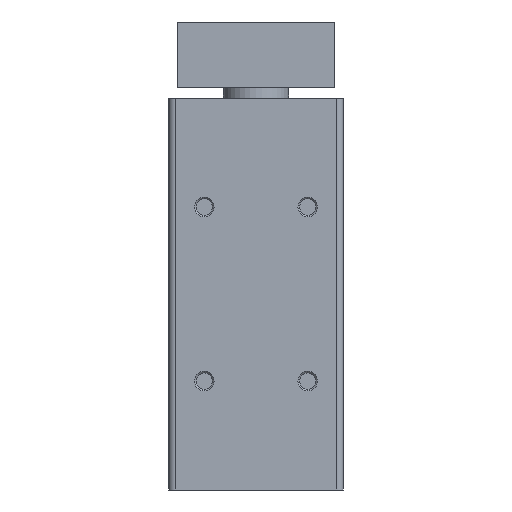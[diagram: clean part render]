
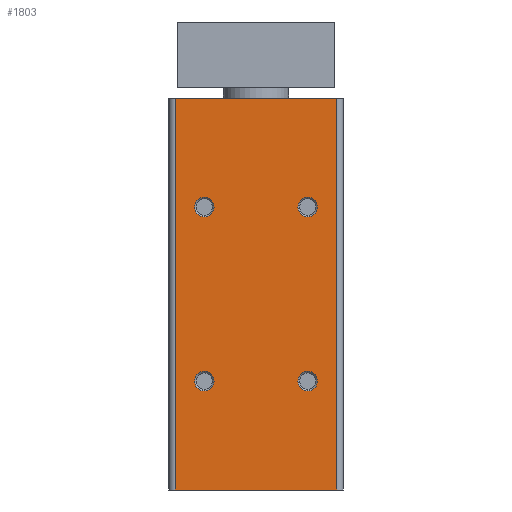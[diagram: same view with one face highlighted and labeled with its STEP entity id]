
A CAD part, front view. The second image highlights one B-rep face of the part: STEP entity #1803.
In plain terms, the highlighted planar face has unit normal (0, -1, 0).
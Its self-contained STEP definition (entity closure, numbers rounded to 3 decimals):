
#748=CARTESIAN_POINT('',(-14.8,-41.,-2.0));
#749=VERTEX_POINT('',#748);
#757=CARTESIAN_POINT('',(14.8,-41.,-2.0));
#758=VERTEX_POINT('',#757);
#759=CARTESIAN_POINT('',(14.8,-41.,-2.0));
#760=DIRECTION('',(-1.0,0.0,0.0));
#761=VECTOR('',#760,29.6);
#762=LINE('',#759,#761);
#763=EDGE_CURVE('',#758,#749,#762,.T.);
#1146=CARTESIAN_POINT('',(14.8,-41.,-74.0));
#1147=VERTEX_POINT('',#1146);
#1155=CARTESIAN_POINT('',(-14.8,-41.,-74.0));
#1156=VERTEX_POINT('',#1155);
#1157=CARTESIAN_POINT('',(-14.8,-41.,-74.0));
#1158=DIRECTION('',(1.0,0.0,0.0));
#1159=VECTOR('',#1158,29.6);
#1160=LINE('',#1157,#1159);
#1161=EDGE_CURVE('',#1156,#1147,#1160,.T.);
#1734=CARTESIAN_POINT('',(-7.7,-41.,-22.0));
#1735=VERTEX_POINT('',#1734);
#1736=CARTESIAN_POINT('',(-9.5,-41.,-22.0));
#1737=DIRECTION('',(0.0,-1.0,0.0));
#1738=DIRECTION('',(-1.0,0.0,0.0));
#1739=AXIS2_PLACEMENT_3D('',#1736,#1737,#1738);
#1740=CIRCLE('',#1739,1.8);
#1741=EDGE_CURVE('',#1735,#1735,#1740,.T.);
#1746=CARTESIAN_POINT('',(-14.8,-41.,-2.0));
#1747=DIRECTION('',(0.0,-1.0,0.0));
#1748=DIRECTION('',(0.0,0.0,-1.0));
#1749=AXIS2_PLACEMENT_3D('',#1746,#1747,#1748);
#1750=PLANE('',#1749);
#1751=ORIENTED_EDGE('',*,*,#1161,.T.);
#1752=CARTESIAN_POINT('',(14.8,-41.,-2.0));
#1753=DIRECTION('',(0.0,0.0,-1.0));
#1754=VECTOR('',#1753,72.0);
#1755=LINE('',#1752,#1754);
#1756=EDGE_CURVE('',#758,#1147,#1755,.T.);
#1757=ORIENTED_EDGE('',*,*,#1756,.F.);
#1758=ORIENTED_EDGE('',*,*,#763,.T.);
#1759=CARTESIAN_POINT('',(-14.8,-41.,-2.0));
#1760=DIRECTION('',(0.0,0.0,-1.0));
#1761=VECTOR('',#1760,72.0);
#1762=LINE('',#1759,#1761);
#1763=EDGE_CURVE('',#749,#1156,#1762,.T.);
#1764=ORIENTED_EDGE('',*,*,#1763,.T.);
#1765=EDGE_LOOP('',(#1751,#1757,#1758,#1764));
#1766=FACE_OUTER_BOUND('',#1765,.T.);
#1767=CARTESIAN_POINT('',(-7.7,-41.,-54.0));
#1768=VERTEX_POINT('',#1767);
#1769=CARTESIAN_POINT('',(-9.5,-41.,-54.0));
#1770=DIRECTION('',(0.0,-1.0,0.0));
#1771=DIRECTION('',(-1.0,0.0,0.0));
#1772=AXIS2_PLACEMENT_3D('',#1769,#1770,#1771);
#1773=CIRCLE('',#1772,1.8);
#1774=EDGE_CURVE('',#1768,#1768,#1773,.T.);
#1775=ORIENTED_EDGE('',*,*,#1774,.F.);
#1776=EDGE_LOOP('',(#1775));
#1777=FACE_BOUND('',#1776,.T.);
#1778=CARTESIAN_POINT('',(11.3,-41.,-22.0));
#1779=VERTEX_POINT('',#1778);
#1780=CARTESIAN_POINT('',(9.5,-41.,-22.0));
#1781=DIRECTION('',(0.0,-1.0,0.0));
#1782=DIRECTION('',(-1.0,0.0,0.0));
#1783=AXIS2_PLACEMENT_3D('',#1780,#1781,#1782);
#1784=CIRCLE('',#1783,1.8);
#1785=EDGE_CURVE('',#1779,#1779,#1784,.T.);
#1786=ORIENTED_EDGE('',*,*,#1785,.F.);
#1787=EDGE_LOOP('',(#1786));
#1788=FACE_BOUND('',#1787,.T.);
#1789=CARTESIAN_POINT('',(11.3,-41.,-54.0));
#1790=VERTEX_POINT('',#1789);
#1791=CARTESIAN_POINT('',(9.5,-41.,-54.0));
#1792=DIRECTION('',(0.0,-1.0,0.0));
#1793=DIRECTION('',(-1.0,0.0,0.0));
#1794=AXIS2_PLACEMENT_3D('',#1791,#1792,#1793);
#1795=CIRCLE('',#1794,1.8);
#1796=EDGE_CURVE('',#1790,#1790,#1795,.T.);
#1797=ORIENTED_EDGE('',*,*,#1796,.F.);
#1798=EDGE_LOOP('',(#1797));
#1799=FACE_BOUND('',#1798,.T.);
#1800=ORIENTED_EDGE('',*,*,#1741,.F.);
#1801=EDGE_LOOP('',(#1800));
#1802=FACE_BOUND('',#1801,.T.);
#1803=ADVANCED_FACE('',(#1766,#1777,#1788,#1799,#1802),#1750,.T.);
